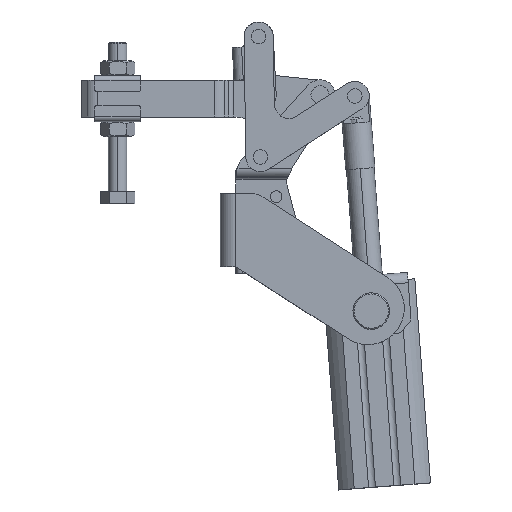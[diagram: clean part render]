
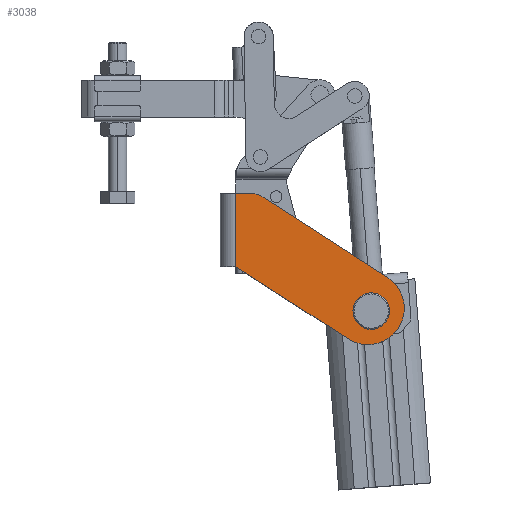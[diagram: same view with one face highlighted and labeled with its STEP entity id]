
A CAD part, top view. The second image highlights one B-rep face of the part: STEP entity #3038.
In plain terms, the highlighted planar face has unit normal (0, 0, 1) as drawn and (1, 0, 0) by its records, which use the part's own axes.
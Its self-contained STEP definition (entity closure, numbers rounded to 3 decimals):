
#895 = AXIS2_PLACEMENT_3D ( 'NONE', #19122, #8085, #20989 ) ;
#1227 = DIRECTION ( 'NONE',  ( 1., 0., 0. ) ) ;
#1436 = CARTESIAN_POINT ( 'NONE',  ( 31., 15.875, -80. ) ) ;
#1692 = LINE ( 'NONE', #11837, #15762 ) ;
#2350 = ORIENTED_EDGE ( 'NONE', *, *, #15985, .T. ) ;
#2558 = CARTESIAN_POINT ( 'NONE',  ( 31., -20.66, -72.731 ) ) ;
#2636 = LINE ( 'NONE', #3733, #21090 ) ;
#3038 = ADVANCED_FACE ( 'NONE', ( #3278, #16780 ), #16367, .T. ) ;
#3179 = VERTEX_POINT ( 'NONE', #4475 ) ;
#3278 = FACE_BOUND ( 'NONE', #3343, .T. ) ;
#3343 = EDGE_LOOP ( 'NONE', ( #8243, #8954 ) ) ;
#3578 = CARTESIAN_POINT ( 'NONE',  ( 31., 15.875, -6.75 ) ) ;
#3733 = CARTESIAN_POINT ( 'NONE',  ( 31., -13.233, -61.22 ) ) ;
#4295 = EDGE_CURVE ( 'NONE', #8754, #17383, #17946, .T. ) ;
#4324 = AXIS2_PLACEMENT_3D ( 'NONE', #17587, #6577, #19470 ) ;
#4436 = EDGE_CURVE ( 'NONE', #12803, #12003, #6421, .T. ) ;
#4475 = CARTESIAN_POINT ( 'NONE',  ( 31., -15.875, -6.75 ) ) ;
#4876 = CIRCLE ( 'NONE', #22320, 6.05 ) ;
#5094 = VERTEX_POINT ( 'NONE', #9933 ) ;
#5442 = EDGE_CURVE ( 'NONE', #5094, #18101, #2636, .T. ) ;
#5775 = DIRECTION ( 'NONE',  ( 1., 0., 0. ) ) ;
#6421 = LINE ( 'NONE', #1436, #11324 ) ;
#6433 = CARTESIAN_POINT ( 'NONE',  ( 31., 15.875, -6.75 ) ) ;
#6456 = ORIENTED_EDGE ( 'NONE', *, *, #19496, .T. ) ;
#6577 = DIRECTION ( 'NONE',  ( -1., 0., 0. ) ) ;
#6677 = EDGE_LOOP ( 'NONE', ( #13230, #2350, #9967, #23735, #7780, #7879, #6456 ) ) ;
#6830 = CARTESIAN_POINT ( 'NONE',  ( 31., -34., -80. ) ) ;
#6833 = EDGE_CURVE ( 'NONE', #17383, #8754, #4876, .T. ) ;
#7218 = CARTESIAN_POINT ( 'NONE',  ( 31., 15.875, -80. ) ) ;
#7313 = EDGE_CURVE ( 'NONE', #3179, #12052, #1692, .T. ) ;
#7479 = DIRECTION ( 'NONE',  ( -1., 0., 0. ) ) ;
#7780 = ORIENTED_EDGE ( 'NONE', *, *, #7313, .T. ) ;
#7879 = ORIENTED_EDGE ( 'NONE', *, *, #8320, .T. ) ;
#8085 = DIRECTION ( 'NONE',  ( 1., 0., 0. ) ) ;
#8243 = ORIENTED_EDGE ( 'NONE', *, *, #4295, .T. ) ;
#8320 = EDGE_CURVE ( 'NONE', #12052, #9214, #16291, .T. ) ;
#8754 = VERTEX_POINT ( 'NONE', #20478 ) ;
#8954 = ORIENTED_EDGE ( 'NONE', *, *, #6833, .T. ) ;
#9071 = VECTOR ( 'NONE', #14591, 1000. ) ;
#9214 = VERTEX_POINT ( 'NONE', #6830 ) ;
#9933 = CARTESIAN_POINT ( 'NONE',  ( 31., 14.278, -18.579 ) ) ;
#9967 = ORIENTED_EDGE ( 'NONE', *, *, #4436, .T. ) ;
#10927 = DIRECTION ( 'NONE',  ( 1., 0., 0. ) ) ;
#11324 = VECTOR ( 'NONE', #12453, 1000. ) ;
#11333 = CIRCLE ( 'NONE', #21670, 10. ) ;
#11837 = CARTESIAN_POINT ( 'NONE',  ( 31., -15.875, -6.75 ) ) ;
#12003 = VERTEX_POINT ( 'NONE', #6433 ) ;
#12052 = VERTEX_POINT ( 'NONE', #15727 ) ;
#12234 = CARTESIAN_POINT ( 'NONE',  ( 31., -34., -64.125 ) ) ;
#12453 = DIRECTION ( 'NONE',  ( 0., 0., 1. ) ) ;
#12803 = VERTEX_POINT ( 'NONE', #23384 ) ;
#13230 = ORIENTED_EDGE ( 'NONE', *, *, #5442, .F. ) ;
#13297 = CIRCLE ( 'NONE', #895, 15.875 ) ;
#13681 = DIRECTION ( 'NONE',  ( 0., -0.542, -0.84 ) ) ;
#14072 = DIRECTION ( 'NONE',  ( 0., 0., -1. ) ) ;
#14591 = DIRECTION ( 'NONE',  ( 0., -1., 0. ) ) ;
#14750 = DIRECTION ( 'NONE',  ( 0., -0.542, -0.84 ) ) ;
#15727 = CARTESIAN_POINT ( 'NONE',  ( 31., -47.34, -55.519 ) ) ;
#15762 = VECTOR ( 'NONE', #13681, 1000. ) ;
#15985 = EDGE_CURVE ( 'NONE', #5094, #12803, #11333, .T. ) ;
#16291 = CIRCLE ( 'NONE', #22492, 15.875 ) ;
#16367 = PLANE ( 'NONE',  #21127 ) ;
#16570 = EDGE_CURVE ( 'NONE', #12003, #3179, #17699, .T. ) ;
#16770 = CARTESIAN_POINT ( 'NONE',  ( 31., 5.875, -13.157 ) ) ;
#16780 = FACE_OUTER_BOUND ( 'NONE', #6677, .T. ) ;
#17383 = VERTEX_POINT ( 'NONE', #22727 ) ;
#17587 = CARTESIAN_POINT ( 'NONE',  ( 31., -35.245, -65.583 ) ) ;
#17699 = LINE ( 'NONE', #3578, #9071 ) ;
#17946 = CIRCLE ( 'NONE', #4324, 6.05 ) ;
#18101 = VERTEX_POINT ( 'NONE', #2558 ) ;
#18527 = CARTESIAN_POINT ( 'NONE',  ( 31., -35.245, -65.583 ) ) ;
#18648 = DIRECTION ( 'NONE',  ( 0., 0., -1. ) ) ;
#19122 = CARTESIAN_POINT ( 'NONE',  ( 31., -34., -64.125 ) ) ;
#19470 = DIRECTION ( 'NONE',  ( 0., 0., -1. ) ) ;
#19496 = EDGE_CURVE ( 'NONE', #9214, #18101, #13297, .T. ) ;
#20386 = DIRECTION ( 'NONE',  ( 0., 0., -1. ) ) ;
#20478 = CARTESIAN_POINT ( 'NONE',  ( 31., -35.245, -59.533 ) ) ;
#20989 = DIRECTION ( 'NONE',  ( 0., 0., -1. ) ) ;
#21090 = VECTOR ( 'NONE', #14750, 1000. ) ;
#21127 = AXIS2_PLACEMENT_3D ( 'NONE', #7218, #10927, #23863 ) ;
#21670 = AXIS2_PLACEMENT_3D ( 'NONE', #16770, #5775, #18648 ) ;
#22320 = AXIS2_PLACEMENT_3D ( 'NONE', #18527, #7479, #20386 ) ;
#22492 = AXIS2_PLACEMENT_3D ( 'NONE', #12234, #1227, #14072 ) ;
#22727 = CARTESIAN_POINT ( 'NONE',  ( 31., -35.245, -71.633 ) ) ;
#23384 = CARTESIAN_POINT ( 'NONE',  ( 31., 15.875, -13.157 ) ) ;
#23735 = ORIENTED_EDGE ( 'NONE', *, *, #16570, .T. ) ;
#23863 = DIRECTION ( 'NONE',  ( 0., 0., -1. ) ) ;
